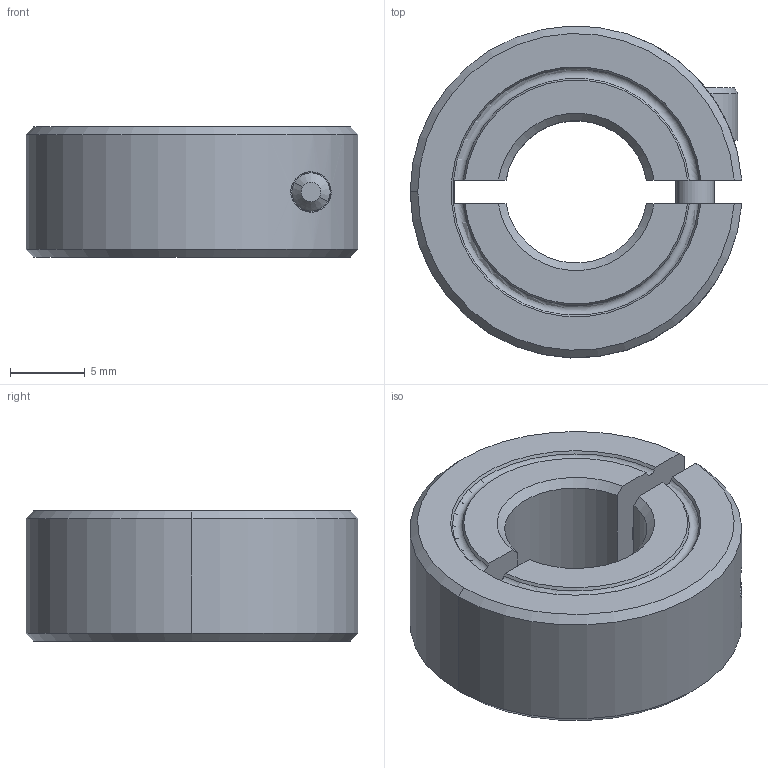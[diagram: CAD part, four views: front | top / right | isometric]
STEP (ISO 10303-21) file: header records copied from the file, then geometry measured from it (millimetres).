
FILE_DESCRIPTION (( 'STEP AP214' ), '1' );
FILE_NAME ('3_8_in_Shaft_Collar-Ruland-CL-6-A.step', '2025-12-29T18:00:21', ( '' ), ( '' ), 'SwSTEP 2.0', 'SolidWorks 2026', '' );
FILE_SCHEMA (( 'AUTOMOTIVE_DESIGN' ));
Length unit declared in the file: inch
Products named in the file (3): 3_8_in_Shaft_Collar-Ruland-CL-6-A; Ruland_Inch Socket Head Cap Screws1_CF6-32_0.375; Ruland_CL Collars A_CL-6-F
Assembly tree (2 placements, depth 2):
  3_8_in_Shaft_Collar-Ruland-CL-6-A
    Ruland_CL Collars A_CL-6-F
    Ruland_Inch Socket Head Cap Screws1_CF6-32_0.375
Bounding box: 22.2 x 22.21 x 8.71 mm (x, y, z)
Volume: 2523.2 mm3; surface area: 1882.5 mm2
Topology: 2 solids, 2 shells, 50 faces, 124 edges, 81 vertices
Faces by surface type: plane 20, cylinder 15, cone 14, torus 1
Entity records: 1714 total; most frequent: CARTESIAN_POINT 422, DIRECTION 254, ORIENTED_EDGE 248, EDGE_CURVE 124, AXIS2_PLACEMENT_3D 97, VERTEX_POINT 81, LINE 60, VECTOR 60
